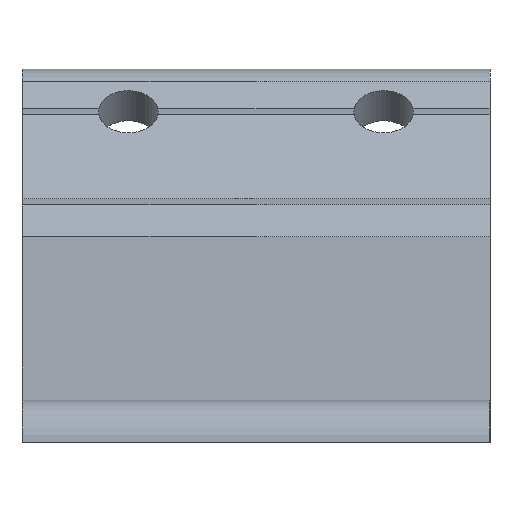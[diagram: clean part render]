
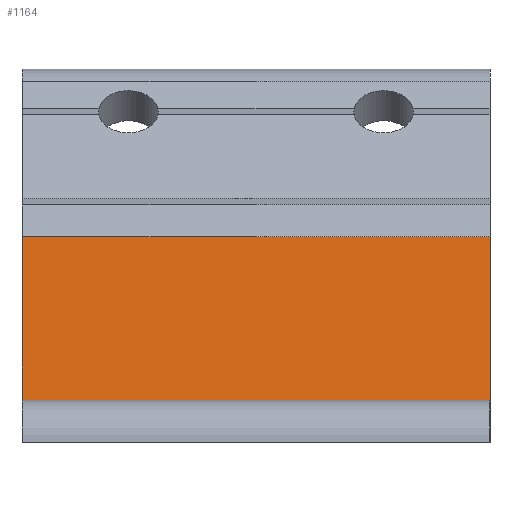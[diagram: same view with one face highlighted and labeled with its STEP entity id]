
A CAD part, left-side view. The second image highlights one B-rep face of the part: STEP entity #1164.
In plain terms, the highlighted planar face has unit normal (-0.383, 0, 0.924).
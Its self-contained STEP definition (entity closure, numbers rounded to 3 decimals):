
#100=LINE('',#1822,#222);
#127=LINE('',#1881,#249);
#145=LINE('',#1915,#267);
#152=LINE('',#1932,#274);
#222=VECTOR('',#1451,1000.);
#249=VECTOR('',#1498,1000.);
#267=VECTOR('',#1520,1000.);
#274=VECTOR('',#1543,1000.);
#502=ORIENTED_EDGE('',*,*,#717,.T.);
#503=ORIENTED_EDGE('',*,*,#780,.F.);
#504=ORIENTED_EDGE('',*,*,#750,.F.);
#505=ORIENTED_EDGE('',*,*,#769,.T.);
#717=EDGE_CURVE('',#886,#885,#100,.T.);
#750=EDGE_CURVE('',#907,#908,#127,.T.);
#769=EDGE_CURVE('',#907,#886,#145,.T.);
#780=EDGE_CURVE('',#908,#885,#152,.T.);
#885=VERTEX_POINT('',#1821);
#886=VERTEX_POINT('',#1823);
#907=VERTEX_POINT('',#1880);
#908=VERTEX_POINT('',#1882);
#992=EDGE_LOOP('',(#502,#503,#504,#505));
#1054=FACE_BOUND('',#992,.T.);
#1114=PLANE('',#1277);
#1164=ADVANCED_FACE('',(#1054),#1114,.F.);
#1277=AXIS2_PLACEMENT_3D('',#1957,#1576,#1577);
#1451=DIRECTION('',(-0.924,0.,-0.383));
#1498=DIRECTION('',(-0.924,0.,-0.383));
#1520=DIRECTION('',(0.,1.,0.));
#1543=DIRECTION('',(0.,1.,0.));
#1576=DIRECTION('',(0.383,0.,-0.924));
#1577=DIRECTION('',(-0.924,0.,-0.383));
#1821=CARTESIAN_POINT('',(-29.254,27.5,5.));
#1822=CARTESIAN_POINT('',(17.15,27.5,24.221));
#1823=CARTESIAN_POINT('',(17.15,27.5,24.221));
#1880=CARTESIAN_POINT('',(17.15,-27.5,24.221));
#1881=CARTESIAN_POINT('',(17.15,-27.5,24.221));
#1882=CARTESIAN_POINT('',(-29.254,-27.5,5.));
#1915=CARTESIAN_POINT('',(17.15,-27.5,24.221));
#1932=CARTESIAN_POINT('',(-29.254,-27.5,5.));
#1957=CARTESIAN_POINT('',(17.15,-27.5,24.221));
